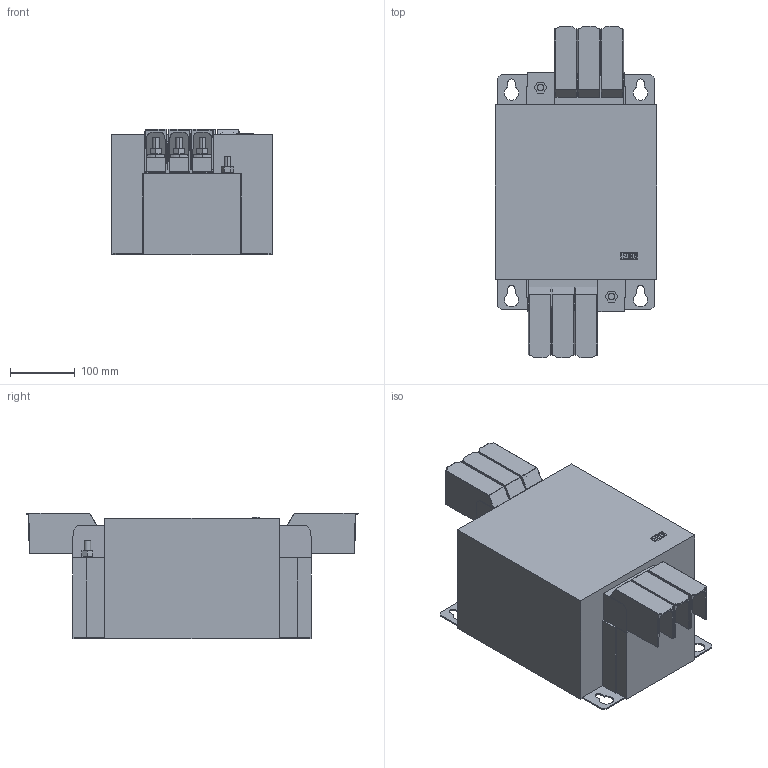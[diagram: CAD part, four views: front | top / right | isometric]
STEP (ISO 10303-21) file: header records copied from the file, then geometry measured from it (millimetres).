
FILE_DESCRIPTION (( 'STEP AP214' ), '1' );
FILE_NAME ('00E6X01-0027.STEP', '2023-07-10T14:58:29', ( '' ), ( '' ), 'SwSTEP 2.0', 'SolidWorks 2022', '' );
FILE_SCHEMA (( 'AUTOMOTIVE_DESIGN' ));
Length unit declared in the file: millimetre
Products named in the file (1): 00E6X01-0027
Bounding box: 250 x 514.52 x 194.6 mm (x, y, z)
Volume: 15203702.6 mm3; surface area: 593136.6 mm2
Topology: 1 solids, 1 shells, 642 faces, 1695 edges, 1048 vertices
Faces by surface type: plane 326, cylinder 255, sphere 48, bspline 13
Entity records: 20416 total; most frequent: CARTESIAN_POINT 5119, ORIENTED_EDGE 3318, DIRECTION 2911, EDGE_CURVE 1659, LINE 1063, VECTOR 1063, VERTEX_POINT 1048, AXIS2_PLACEMENT_3D 924
